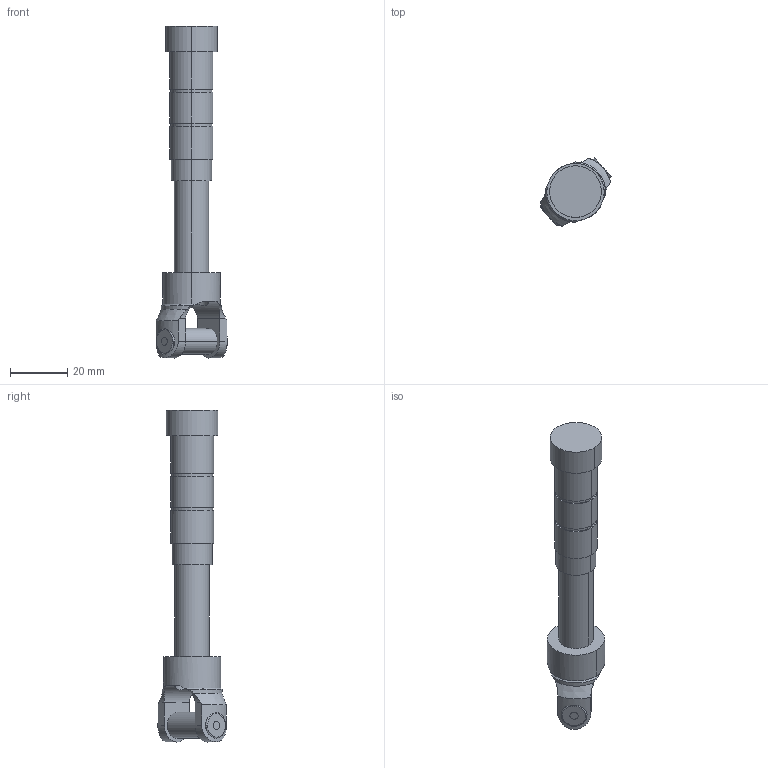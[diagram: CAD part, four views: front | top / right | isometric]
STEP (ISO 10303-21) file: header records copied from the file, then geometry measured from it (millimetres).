
FILE_DESCRIPTION (( 'STEP AP214' ), '1' );
FILE_NAME ('IRB360_8-1130-STD-4D_rev03_RevoluteLinkBase_CAD.step', '2025-01-14T07:06:08', ( '' ), ( '' ), 'SwSTEP 2.0', 'SolidWorks 2022', '' );
FILE_SCHEMA (( 'AUTOMOTIVE_DESIGN' ));
Length unit declared in the file: millimetre
Products named in the file (1): IRB360_8-1130-STD-4D_rev03_RevoluteLinkBase_CAD
Bounding box: 24.98 x 23.91 x 115.8 mm (x, y, z)
Volume: 19644 mm3; surface area: 8165.6 mm2
Topology: 3 solids, 3 shells, 71 faces, 169 edges, 111 vertices
Faces by surface type: cylinder 43, plane 21, cone 5, bspline 2
Entity records: 2492 total; most frequent: CARTESIAN_POINT 805, ORIENTED_EDGE 338, DIRECTION 338, EDGE_CURVE 169, AXIS2_PLACEMENT_3D 142, VERTEX_POINT 111, EDGE_LOOP 84, CIRCLE 72
